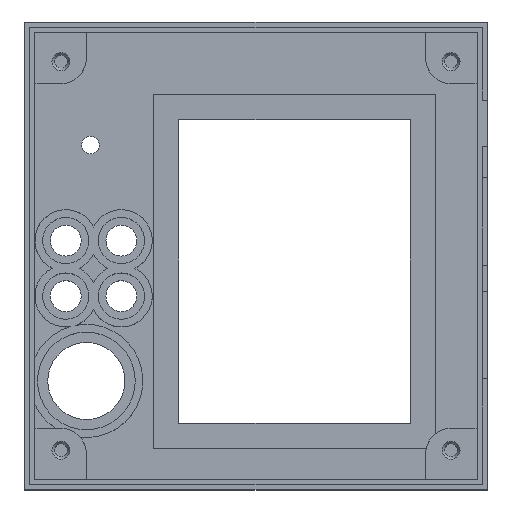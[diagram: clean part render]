
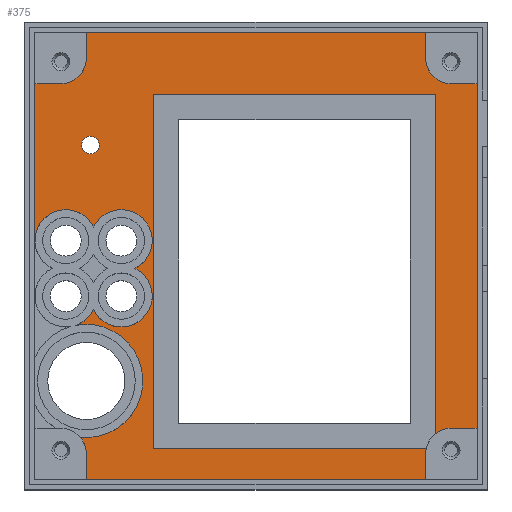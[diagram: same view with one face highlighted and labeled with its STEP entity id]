
A CAD part, top view. The second image highlights one B-rep face of the part: STEP entity #375.
In plain terms, the highlighted planar face has unit normal (0, 0, 1).
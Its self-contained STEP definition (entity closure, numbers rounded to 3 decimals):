
#375=ADVANCED_FACE('',(#2733,#2735),#2737,.T.);
#2733=FACE_BOUND('',#2734,.T.);
#2734=EDGE_LOOP('',(#5983,#5984,#5985,#5986,#5987,#5988,#5989,#5990,#5991,#5992,
#5993,#5994,#5995,#5996,#5997,#5998,#5999,#6000,#6001,#6002,#6003,#6004,#6005,#6006,
#6007));
#2735=FACE_BOUND('',#2736,.T.);
#2736=EDGE_LOOP('',(#6008));
#2737=PLANE('',#2738);
#2738=AXIS2_PLACEMENT_3D('',#2739,#2740,#2741);
#2739=CARTESIAN_POINT('',(0.,0.,2.));
#2740=DIRECTION('',(0.,0.,1.));
#2741=DIRECTION('',(-1.,0.,0.));
#5983=ORIENTED_EDGE('',*,*,#7992,.F.);
#5984=ORIENTED_EDGE('',*,*,#7993,.F.);
#5985=ORIENTED_EDGE('',*,*,#7994,.F.);
#5986=ORIENTED_EDGE('',*,*,#7995,.F.);
#5987=ORIENTED_EDGE('',*,*,#7996,.F.);
#5988=ORIENTED_EDGE('',*,*,#7997,.T.);
#5989=ORIENTED_EDGE('',*,*,#7998,.T.);
#5990=ORIENTED_EDGE('',*,*,#7999,.T.);
#5991=ORIENTED_EDGE('',*,*,#8000,.T.);
#5992=ORIENTED_EDGE('',*,*,#8001,.T.);
#5993=ORIENTED_EDGE('',*,*,#8002,.T.);
#5994=ORIENTED_EDGE('',*,*,#8003,.T.);
#5995=ORIENTED_EDGE('',*,*,#8004,.T.);
#5996=ORIENTED_EDGE('',*,*,#8005,.T.);
#5997=ORIENTED_EDGE('',*,*,#8006,.T.);
#5998=ORIENTED_EDGE('',*,*,#8007,.T.);
#5999=ORIENTED_EDGE('',*,*,#8008,.T.);
#6000=ORIENTED_EDGE('',*,*,#8009,.T.);
#6001=ORIENTED_EDGE('',*,*,#8010,.T.);
#6002=ORIENTED_EDGE('',*,*,#8011,.T.);
#6003=ORIENTED_EDGE('',*,*,#8012,.T.);
#6004=ORIENTED_EDGE('',*,*,#8013,.T.);
#6005=ORIENTED_EDGE('',*,*,#8014,.T.);
#6006=ORIENTED_EDGE('',*,*,#8015,.T.);
#6007=ORIENTED_EDGE('',*,*,#8016,.T.);
#6008=ORIENTED_EDGE('',*,*,#7510,.T.);
#7510=EDGE_CURVE('',#9174,#9174,#9175,.F.);
#7992=EDGE_CURVE('',#9908,#9909,#9910,.T.);
#7993=EDGE_CURVE('',#9911,#9908,#9912,.T.);
#7994=EDGE_CURVE('',#9913,#9911,#9914,.T.);
#7995=EDGE_CURVE('',#9915,#9913,#9916,.T.);
#7996=EDGE_CURVE('',#9917,#9915,#9918,.T.);
#7997=EDGE_CURVE('',#9917,#9919,#9920,.T.);
#7998=EDGE_CURVE('',#9919,#9921,#9922,.T.);
#7999=EDGE_CURVE('',#9921,#9923,#9924,.T.);
#8000=EDGE_CURVE('',#9923,#9925,#9926,.T.);
#8001=EDGE_CURVE('',#9925,#9927,#9928,.T.);
#8002=EDGE_CURVE('',#9927,#9929,#9930,.F.);
#8003=EDGE_CURVE('',#9929,#9931,#9932,.F.);
#8004=EDGE_CURVE('',#9931,#9933,#9934,.F.);
#8005=EDGE_CURVE('',#9933,#9935,#9936,.F.);
#8006=EDGE_CURVE('',#9935,#9937,#9938,.T.);
#8007=EDGE_CURVE('',#9937,#9939,#9940,.T.);
#8008=EDGE_CURVE('',#9939,#9941,#9942,.T.);
#8009=EDGE_CURVE('',#9941,#9943,#9944,.T.);
#8010=EDGE_CURVE('',#9943,#9945,#9946,.T.);
#8011=EDGE_CURVE('',#9945,#9947,#9948,.T.);
#8012=EDGE_CURVE('',#9947,#9949,#9950,.T.);
#8013=EDGE_CURVE('',#9949,#9951,#9952,.T.);
#8014=EDGE_CURVE('',#9951,#9953,#9954,.T.);
#8015=EDGE_CURVE('',#9953,#9955,#9956,.T.);
#8016=EDGE_CURVE('',#9955,#9909,#9957,.T.);
#9174=VERTEX_POINT('',#12242);
#9175=CIRCLE('',#12243,1.7);
#9908=VERTEX_POINT('',#13946);
#9909=VERTEX_POINT('',#13947);
#9910=CIRCLE('',#13948,6.);
#9911=VERTEX_POINT('',#13952);
#9912=CIRCLE('',#13953,6.);
#9913=VERTEX_POINT('',#13957);
#9914=CIRCLE('',#13958,6.);
#9915=VERTEX_POINT('',#13962);
#9916=CIRCLE('',#13963,6.);
#9917=VERTEX_POINT('',#13967);
#9918=CIRCLE('',#13968,11.);
#9919=VERTEX_POINT('',#13972);
#9920=CIRCLE('',#13973,5.);
#9921=VERTEX_POINT('',#13977);
#9922=LINE('',#13978,#13979);
#9923=VERTEX_POINT('',#13981);
#9924=LINE('',#13982,#13983);
#9925=VERTEX_POINT('',#13985);
#9926=LINE('',#13986,#13987);
#9927=VERTEX_POINT('',#13989);
#9928=CIRCLE('',#13990,5.);
#9929=VERTEX_POINT('',#13994);
#9930=LINE('',#13995,#13996);
#9931=VERTEX_POINT('',#13998);
#9932=LINE('',#13999,#14000);
#9933=VERTEX_POINT('',#14002);
#9934=LINE('',#14003,#14004);
#9935=VERTEX_POINT('',#14006);
#9936=LINE('',#14007,#14008);
#9937=VERTEX_POINT('',#14010);
#9938=CIRCLE('',#14011,5.);
#9939=VERTEX_POINT('',#14015);
#9940=LINE('',#14016,#14017);
#9941=VERTEX_POINT('',#14019);
#9942=LINE('',#14020,#14021);
#9943=VERTEX_POINT('',#14023);
#9944=LINE('',#14024,#14025);
#9945=VERTEX_POINT('',#14027);
#9946=CIRCLE('',#14028,5.);
#9947=VERTEX_POINT('',#14032);
#9948=LINE('',#14033,#14034);
#9949=VERTEX_POINT('',#14036);
#9950=LINE('',#14037,#14038);
#9951=VERTEX_POINT('',#14040);
#9952=LINE('',#14041,#14042);
#9953=VERTEX_POINT('',#14044);
#9954=CIRCLE('',#14045,5.);
#9955=VERTEX_POINT('',#14049);
#9956=LINE('',#14050,#14051);
#9957=LINE('',#14053,#14054);
#12242=CARTESIAN_POINT('',(-30.505,21.6,2.));
#12243=AXIS2_PLACEMENT_3D('',#12244,#12245,#12246);
#12244=CARTESIAN_POINT('',(-32.205,21.6,2.));
#12245=DIRECTION('',(0.,0.,1.));
#12246=DIRECTION('',(1.,0.,0.));
#13946=CARTESIAN_POINT('',(-31.6,5.615,2.));
#13947=CARTESIAN_POINT('',(-43.,3.,2.));
#13948=AXIS2_PLACEMENT_3D('',#13949,#13950,#13951);
#13949=CARTESIAN_POINT('',(-37.,3.,2.));
#13950=DIRECTION('',(0.,0.,1.));
#13951=DIRECTION('',(0.9,0.436,0.));
#13952=CARTESIAN_POINT('',(-23.585,-2.4,2.));
#13953=AXIS2_PLACEMENT_3D('',#13954,#13955,#13956);
#13954=CARTESIAN_POINT('',(-26.2,3.,2.));
#13955=DIRECTION('',(0.,0.,1.));
#13956=DIRECTION('',(0.436,-0.9,0.));
#13957=CARTESIAN_POINT('',(-31.6,-10.415,2.));
#13958=AXIS2_PLACEMENT_3D('',#13959,#13960,#13961);
#13959=CARTESIAN_POINT('',(-26.2,-7.8,2.));
#13960=DIRECTION('',(0.,0.,1.));
#13961=DIRECTION('',(-0.9,-0.436,0.));
#13962=CARTESIAN_POINT('',(-35.188,-13.52,2.));
#13963=AXIS2_PLACEMENT_3D('',#13964,#13965,#13966);
#13964=CARTESIAN_POINT('',(-37.,-7.8,2.));
#13965=DIRECTION('',(0.,0.,1.));
#13966=DIRECTION('',(0.302,-0.953,0.));
#13967=CARTESIAN_POINT('',(-34.215,-35.233,2.));
#13968=AXIS2_PLACEMENT_3D('',#13969,#13970,#13971);
#13969=CARTESIAN_POINT('',(-33.,-24.3,2.));
#13970=DIRECTION('',(0.,0.,1.));
#13971=DIRECTION('',(-0.11,-0.994,0.));
#13972=CARTESIAN_POINT('',(-33.,-38.5,2.));
#13973=AXIS2_PLACEMENT_3D('',#13974,#13975,#13976);
#13974=CARTESIAN_POINT('',(-38.,-38.5,2.));
#13975=DIRECTION('',(0.,0.,-1.));
#13976=DIRECTION('',(0.757,0.653,0.));
#13977=CARTESIAN_POINT('',(-33.,-43.5,2.));
#13978=CARTESIAN_POINT('',(-33.,-38.5,2.));
#13979=VECTOR('',#13980,1.);
#13980=DIRECTION('',(0.,-1.,0.));
#13981=CARTESIAN_POINT('',(33.,-43.5,2.));
#13982=CARTESIAN_POINT('',(-33.,-43.5,2.));
#13983=VECTOR('',#13984,1.);
#13984=DIRECTION('',(1.,0.,0.));
#13985=CARTESIAN_POINT('',(33.,-38.5,2.));
#13986=CARTESIAN_POINT('',(33.,-43.5,2.));
#13987=VECTOR('',#13988,1.);
#13988=DIRECTION('',(0.,1.,0.));
#13989=CARTESIAN_POINT('',(33.101,-37.5,2.));
#13990=AXIS2_PLACEMENT_3D('',#13991,#13992,#13993);
#13991=CARTESIAN_POINT('',(38.,-38.5,2.));
#13992=DIRECTION('',(0.,0.,-1.));
#13993=DIRECTION('',(-1.,0.,0.));
#13994=CARTESIAN_POINT('',(-20.,-37.5,2.));
#13995=CARTESIAN_POINT('',(-20.,-37.5,2.));
#13996=VECTOR('',#13997,1.);
#13997=DIRECTION('',(1.,0.,0.));
#13998=CARTESIAN_POINT('',(-20.,31.5,2.));
#13999=CARTESIAN_POINT('',(-20.,31.5,2.));
#14000=VECTOR('',#14001,1.);
#14001=DIRECTION('',(0.,-1.,0.));
#14002=CARTESIAN_POINT('',(35.,31.5,2.));
#14003=CARTESIAN_POINT('',(35.,31.5,2.));
#14004=VECTOR('',#14005,1.);
#14005=DIRECTION('',(-1.,0.,0.));
#14006=CARTESIAN_POINT('',(35.,-34.5,2.));
#14007=CARTESIAN_POINT('',(35.,-34.5,2.));
#14008=VECTOR('',#14009,1.);
#14009=DIRECTION('',(0.,1.,0.));
#14010=CARTESIAN_POINT('',(38.,-33.5,2.));
#14011=AXIS2_PLACEMENT_3D('',#14012,#14013,#14014);
#14012=CARTESIAN_POINT('',(38.,-38.5,2.));
#14013=DIRECTION('',(0.,0.,-1.));
#14014=DIRECTION('',(-0.6,0.8,0.));
#14015=CARTESIAN_POINT('',(43.,-33.5,2.));
#14016=CARTESIAN_POINT('',(38.,-33.5,2.));
#14017=VECTOR('',#14018,1.);
#14018=DIRECTION('',(1.,0.,0.));
#14019=CARTESIAN_POINT('',(43.,33.5,2.));
#14020=CARTESIAN_POINT('',(43.,-33.5,2.));
#14021=VECTOR('',#14022,1.);
#14022=DIRECTION('',(0.,1.,0.));
#14023=CARTESIAN_POINT('',(38.,33.5,2.));
#14024=CARTESIAN_POINT('',(43.,33.5,2.));
#14025=VECTOR('',#14026,1.);
#14026=DIRECTION('',(-1.,0.,0.));
#14027=CARTESIAN_POINT('',(33.,38.5,2.));
#14028=AXIS2_PLACEMENT_3D('',#14029,#14030,#14031);
#14029=CARTESIAN_POINT('',(38.,38.5,2.));
#14030=DIRECTION('',(0.,0.,-1.));
#14031=DIRECTION('',(0.,-1.,0.));
#14032=CARTESIAN_POINT('',(33.,43.5,2.));
#14033=CARTESIAN_POINT('',(33.,38.5,2.));
#14034=VECTOR('',#14035,1.);
#14035=DIRECTION('',(0.,1.,0.));
#14036=CARTESIAN_POINT('',(-33.,43.5,2.));
#14037=CARTESIAN_POINT('',(33.,43.5,2.));
#14038=VECTOR('',#14039,1.);
#14039=DIRECTION('',(-1.,0.,0.));
#14040=CARTESIAN_POINT('',(-33.,38.5,2.));
#14041=CARTESIAN_POINT('',(-33.,43.5,2.));
#14042=VECTOR('',#14043,1.);
#14043=DIRECTION('',(0.,-1.,0.));
#14044=CARTESIAN_POINT('',(-38.,33.5,2.));
#14045=AXIS2_PLACEMENT_3D('',#14046,#14047,#14048);
#14046=CARTESIAN_POINT('',(-38.,38.5,2.));
#14047=DIRECTION('',(0.,0.,-1.));
#14048=DIRECTION('',(1.,0.,0.));
#14049=CARTESIAN_POINT('',(-43.,33.5,2.));
#14050=CARTESIAN_POINT('',(-38.,33.5,2.));
#14051=VECTOR('',#14052,1.);
#14052=DIRECTION('',(-1.,0.,0.));
#14053=CARTESIAN_POINT('',(-43.,33.5,2.));
#14054=VECTOR('',#14055,1.);
#14055=DIRECTION('',(0.,-1.,0.));
